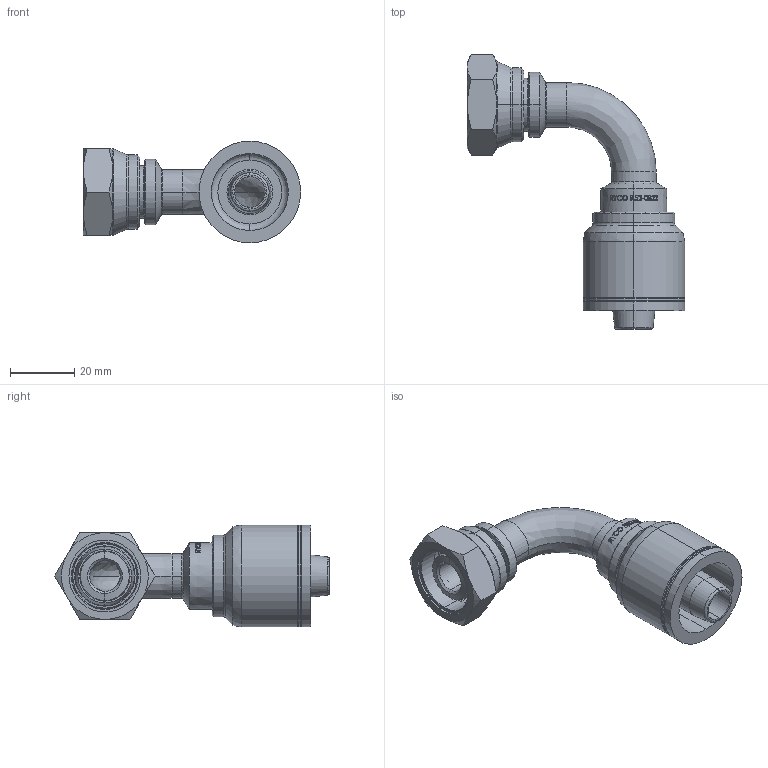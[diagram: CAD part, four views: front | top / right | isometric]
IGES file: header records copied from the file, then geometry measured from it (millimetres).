
Start section: SolidWorks IGES file using analytic representation for surfaces
Global section: file name: X:\SolidWorks\Solidworks models-to be checked\Customer Part Models\T252-0822.IGS; native system: SolidWorks 2010; preprocessor: SolidWorks 2010; author: MKitchenham; date: 120326.165853; units: millimetre
Bounding box: 67.48 x 85.28 x 31.55 mm (x, y, z)
Volume: 26012.4 mm3; surface area: 17934.6 mm2
Topology: 3 solids, 3 shells, 313 faces, 754 edges, 470 vertices
Faces by surface type: revolution 155, bspline 99, plane 59
